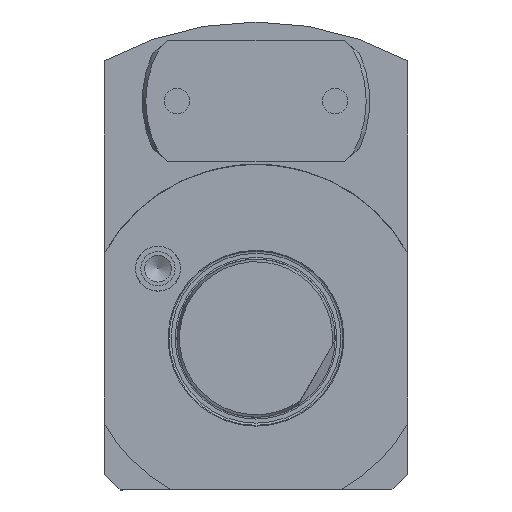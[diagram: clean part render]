
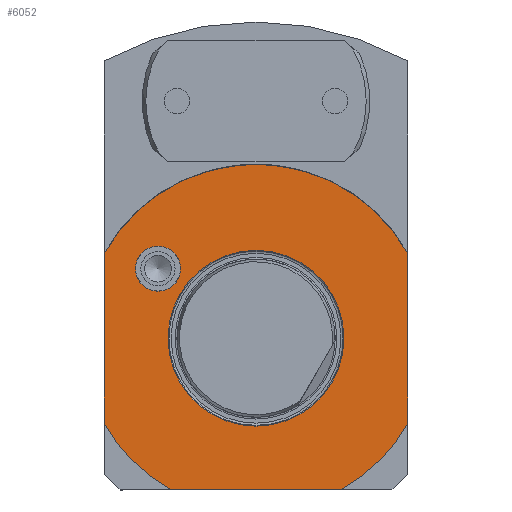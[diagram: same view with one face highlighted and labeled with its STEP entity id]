
A CAD part, left-side view. The second image highlights one B-rep face of the part: STEP entity #6052.
In plain terms, the highlighted planar face has unit normal (-1, 0, 0).
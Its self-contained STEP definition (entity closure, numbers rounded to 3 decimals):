
#210=CIRCLE('',#5637,55.);
#211=CIRCLE('',#5639,55.);
#212=CIRCLE('',#5640,55.);
#213=CIRCLE('',#5641,7.135);
#214=CIRCLE('',#5642,27.8);
#460=ORIENTED_EDGE('',*,*,#1932,.F.);
#461=ORIENTED_EDGE('',*,*,#1930,.F.);
#462=ORIENTED_EDGE('',*,*,#1865,.F.);
#463=ORIENTED_EDGE('',*,*,#1933,.F.);
#464=ORIENTED_EDGE('',*,*,#1934,.F.);
#465=ORIENTED_EDGE('',*,*,#1935,.F.);
#466=ORIENTED_EDGE('',*,*,#1936,.T.);
#467=ORIENTED_EDGE('',*,*,#1937,.F.);
#1166=VECTOR('',#2768,1.);
#1198=VECTOR('',#2888,1.);
#1199=VECTOR('',#2891,1.);
#1366=LINE('',#3668,#1166);
#1398=LINE('',#4422,#1198);
#1399=LINE('',#4426,#1199);
#1572=VERTEX_POINT('',#3665);
#1573=VERTEX_POINT('',#3667);
#1619=VERTEX_POINT('',#4417);
#1620=VERTEX_POINT('',#4421);
#1621=VERTEX_POINT('',#4423);
#1622=VERTEX_POINT('',#4425);
#1623=VERTEX_POINT('',#4428);
#1624=VERTEX_POINT('',#4430);
#1865=EDGE_CURVE('',#1572,#1573,#1366,.T.);
#1930=EDGE_CURVE('',#1573,#1619,#210,.T.);
#1932=EDGE_CURVE('',#1619,#1620,#1398,.T.);
#1933=EDGE_CURVE('',#1621,#1572,#211,.T.);
#1934=EDGE_CURVE('',#1622,#1621,#1399,.T.);
#1935=EDGE_CURVE('',#1620,#1622,#212,.T.);
#1936=EDGE_CURVE('',#1623,#1623,#213,.T.);
#1937=EDGE_CURVE('',#1624,#1624,#214,.T.);
#2297=EDGE_LOOP('',(#460,#461,#462,#463,#464,#465));
#2298=EDGE_LOOP('',(#466));
#2299=EDGE_LOOP('',(#467));
#2533=FACE_BOUND('',#2297,.T.);
#2534=FACE_BOUND('',#2298,.T.);
#2535=FACE_BOUND('',#2299,.T.);
#2768=DIRECTION('',(0.,0.,-53.703));
#2883=DIRECTION('',(1.,0.,0.));
#2884=DIRECTION('',(0.,0.,55.));
#2886=DIRECTION('',(-1.,0.,0.));
#2887=DIRECTION('',(0.,1.,0.));
#2888=DIRECTION('',(0.,53.703,0.));
#2889=DIRECTION('',(1.,0.,0.));
#2890=DIRECTION('',(0.,0.,55.));
#2891=DIRECTION('',(0.,0.,53.703));
#2892=DIRECTION('',(1.,0.,0.));
#2893=DIRECTION('',(0.,0.,55.));
#2894=DIRECTION('',(1.,0.,0.));
#2895=DIRECTION('',(0.,7.135,0.));
#2896=DIRECTION('',(-1.,0.,0.));
#2897=DIRECTION('',(0.,13.9,-24.076));
#3665=CARTESIAN_POINT('',(0.,-48.,-173.149));
#3667=CARTESIAN_POINT('',(0.,-48.,-226.851));
#3668=CARTESIAN_POINT('',(0.,-48.,-173.149));
#4417=CARTESIAN_POINT('',(0.,-26.851,-248.));
#4418=CARTESIAN_POINT('',(0.,0.,-200.));
#4420=CARTESIAN_POINT('',(0.,48.,-112.273));
#4421=CARTESIAN_POINT('',(0.,26.851,-248.));
#4422=CARTESIAN_POINT('',(0.,-26.851,-248.));
#4423=CARTESIAN_POINT('',(0.,48.,-173.149));
#4424=CARTESIAN_POINT('',(0.,0.,-200.));
#4425=CARTESIAN_POINT('',(0.,48.,-226.851));
#4426=CARTESIAN_POINT('',(0.,48.,-226.851));
#4427=CARTESIAN_POINT('',(0.,0.,-200.));
#4428=CARTESIAN_POINT('',(0.,38.135,-178.));
#4429=CARTESIAN_POINT('',(0.,31.,-178.));
#4430=CARTESIAN_POINT('',(0.,13.9,-224.076));
#4431=CARTESIAN_POINT('',(0.,0.,-200.));
#5637=AXIS2_PLACEMENT_3D('',#4418,#2883,#2884);
#5638=AXIS2_PLACEMENT_3D('',#4420,#2886,#2887);
#5639=AXIS2_PLACEMENT_3D('',#4424,#2889,#2890);
#5640=AXIS2_PLACEMENT_3D('',#4427,#2892,#2893);
#5641=AXIS2_PLACEMENT_3D('',#4429,#2894,#2895);
#5642=AXIS2_PLACEMENT_3D('',#4431,#2896,#2897);
#5944=PLANE('',#5638);
#6052=ADVANCED_FACE('',(#2533,#2534,#2535),#5944,.T.);
